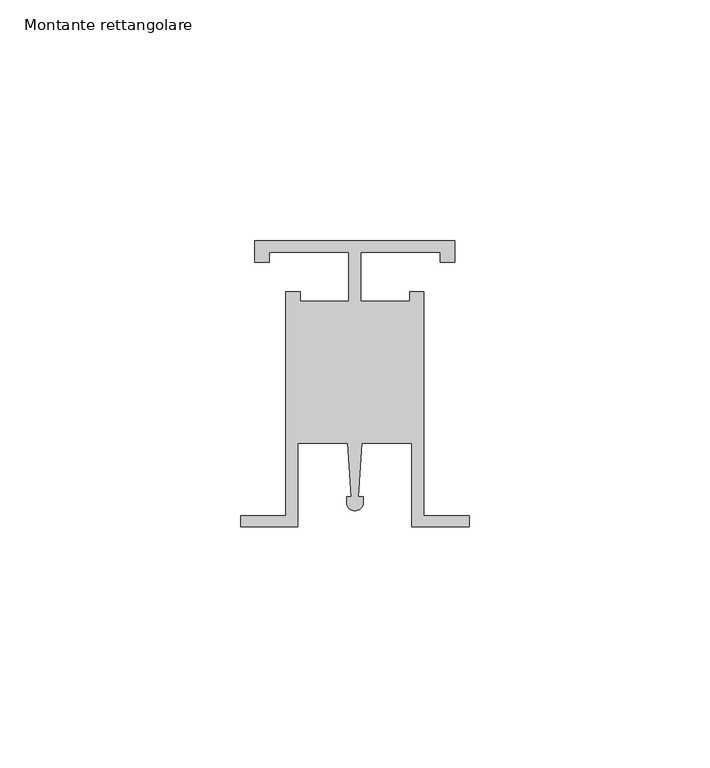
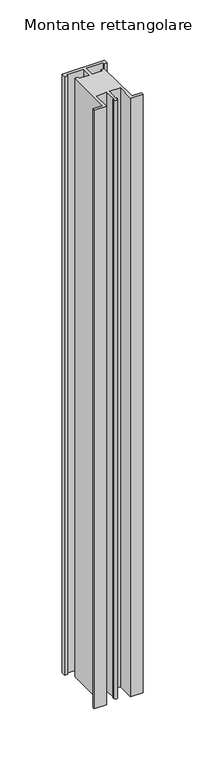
"""IFC4 building model written with IfcOpenShell, lengths in millimetres: member geometry, Montante rettangolare : Verde Profilo's Uprights."""

from ifc_helpers import new_model, si_unit, point, frame, frame_2d, origin, place, context, project, spatial, polyline, circle_curve, trimmed, segment, composite_curve, outline, extrude, source, transform, mapped, element, save


def montante_rettangolare_26806b37(model_context):
    return source(origin(), model_context, "Body", "SweptSolid", [
        extrude(outline(composite_curve([segment(polyline([(-20.7595941, 0.0), (20.7595941, 0.0), (20.7595941, -4.4643434), (17.7832659, -4.4643434), (17.7832659, -2.4801246), (1.24037, -2.4801246), (1.24037, -12.5992217), (11.3587923, -12.5992217), (11.3587923, -10.6150029), (14.3351204, -10.6150029), (14.3351204, -57.1992491), (23.7595941, -57.1992491), (23.7595941, -59.5229914), (11.8549958, -59.5229914), (11.8549958, -42.1200913), (1.4717512, -42.1200913), (0.7440374, -53.2310496), (1.7376604, -53.2310496), (1.7376604, -54.4070013)]), True, "CONTINUOUS"), segment(trimmed(circle_curve(frame_2d((0.0, -54.4070013)), 1.7376604), [point((1.7376604, -54.4070013))], [point((-1.7376604, -54.4070013))], False, "CARTESIAN"), True, "CONTINUOUS"), segment(polyline([(-1.7376604, -54.4070013), (-1.7376604, -53.2310496), (-0.7440374, -53.2310496), (-1.4717512, -42.1200913), (-11.8549958, -42.1200913), (-11.8549958, -59.5229914), (-23.7595941, -59.5229914), (-23.7595941, -57.1992491), (-14.3351204, -57.1992491), (-14.3351204, -10.6150029), (-11.3587923, -10.6150029), (-11.3587923, -12.5992217), (-1.24037, -12.5992217), (-1.24037, -2.4801246), (-17.7832659, -2.4801246), (-17.7832659, -4.4643434), (-20.7595941, -4.4643434), (-20.7595941, 0.0)]), True, "CONTINUOUS")], self_intersect=False)), frame((0.0, 0.0, -617.5198754), z_axis=(0.0, 0.0, 1.0), x_axis=(1.0, 0.0, 0.0)), (0.0, 0.0, 1.0), 617.5198754),
    ])


if __name__ == "__main__":
    model = new_model("IFC4")
    model_context = context("Model", 3, world=origin())
    ifc_project = project(units=[si_unit("LENGTHUNIT", "METRE", prefix="MILLI")], contexts=[model_context])
    site = spatial("IfcSite", under=ifc_project)
    building = spatial("IfcBuilding", under=site)
    placement = place(None, origin())
    montante_rettangolare_shape = montante_rettangolare_26806b37(model_context)
    element("IfcMember", 1, ObjectType="Montante rettangolare : Verde Profilo's Uprights", at=placement, inside=building, context=model_context, shape_type="MappedRepresentation", body=[
        mapped(montante_rettangolare_shape, transform((0.0, 0.0, 0.0), x_axis=(1.0, 0.0, 0.0), y_axis=(0.0, 1.0, 0.0), z_axis=(0.0, 0.0, 1.0))),
    ])
    save(model, "model.ifc")
